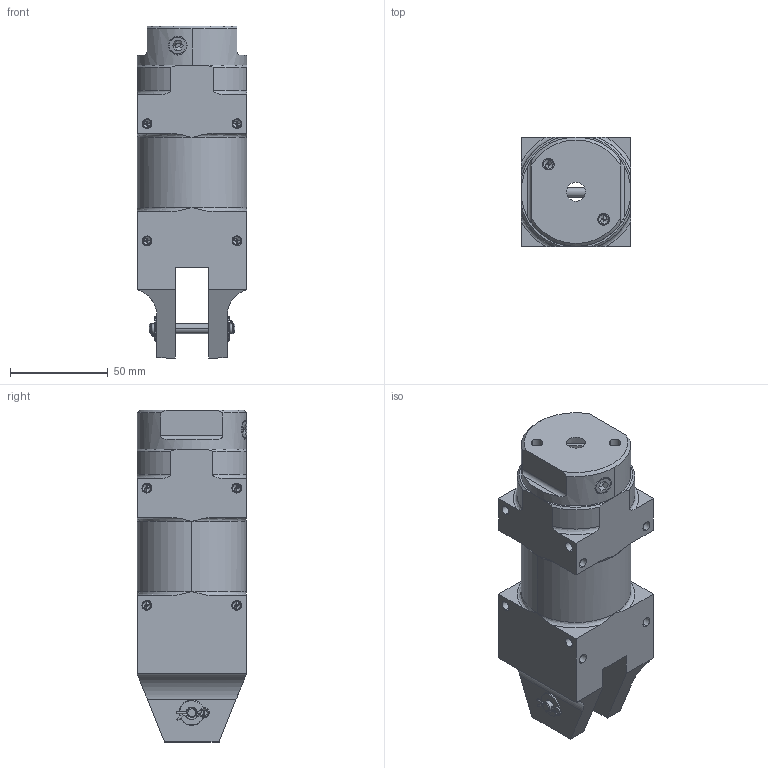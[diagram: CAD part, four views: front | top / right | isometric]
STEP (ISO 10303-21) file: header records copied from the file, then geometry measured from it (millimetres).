
FILE_DESCRIPTION (( 'STEP AP214' ), '1' );
FILE_NAME ('GT-NS30.STEP', '2019-11-28T00:46:54', ( '微软用户' ), ( '微软中国' ), 'SwSTEP 2.0', 'SolidWorks 2016', '' );
FILE_SCHEMA (( 'AUTOMOTIVE_DESIGN' ));
Length unit declared in the file: millimetre
Products named in the file (1): GT-NS30
Bounding box: 56 x 56.26 x 170 mm (x, y, z)
Surface area: 47702.6 mm2 (no closed solid volume)
Topology: 0 solids, 9 shells, 322 faces, 830 edges, 491 vertices
Faces by surface type: cylinder 116, cone 85, plane 85, bspline 34, torus 2
Entity records: 23101 total; most frequent: CARTESIAN_POINT 15954, ORIENTED_EDGE 1493, DIRECTION 1144, EDGE_CURVE 794, VERTEX_POINT 488, AXIS2_PLACEMENT_3D 467, EDGE_LOOP 373, B_SPLINE_CURVE_WITH_KNOTS 369
